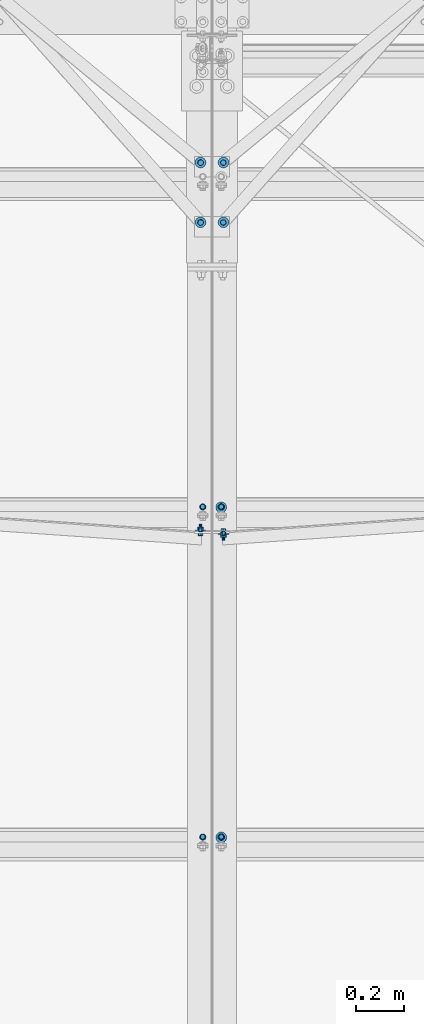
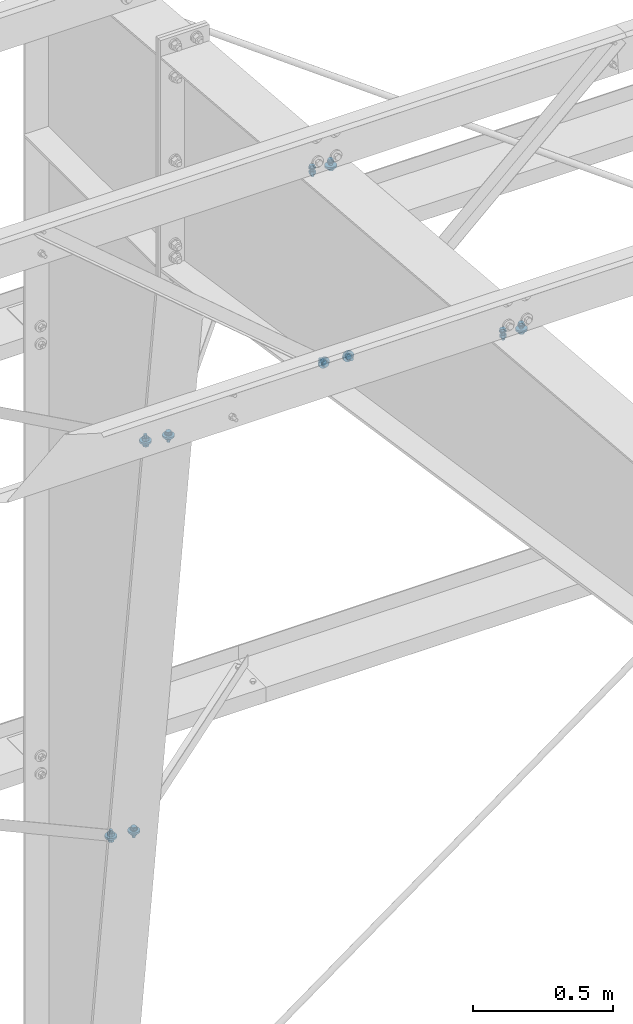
# One storey, part 151 of 185: 16 mechanical fasteners, 10 elements without a shape of their own.
"""IFC2X3 building model written with IfcOpenShell, lengths in millimetres."""

import ifcopenshell
import ifcopenshell.guid

model = None  # the IFC model being written
_history = None  # IfcOwnerHistory: only IFC2X3 demands one
_inside = {}  # id of a spatial element -> (the spatial element, [elements in it])
_under = {}  # id of a project, library or spatial element -> (it, [spatial elements below it])
_declared = {}  # id of a project -> (the project, [libraries it declares])
_typed = {}  # id of a type object -> (the type object, [elements of that type])
_made_of = {}  # id of a material, layer set ... -> (it, [elements and type objects made of it])


def new_model(schema):
    """Start an empty IFC model of exactly this schema.

    Asked for "IFC4X3", IfcOpenShell would pick the latest addendum, in which some entities
    have other attributes; the version numbers below select the first issue.
    IFC2X3 requires an IfcOwnerHistory on every rooted entity: one is made here for all.
    """
    global model, _history
    if schema == "IFC4X3":
        model = ifcopenshell.file(schema_version=(4, 3, 0, 0))
    else:
        model = ifcopenshell.file(schema=schema)
    _inside.clear()
    _under.clear()
    _declared.clear()
    _typed.clear()
    _made_of.clear()
    _history = None
    if model.schema == "IFC2X3":
        org = make("IfcOrganization", Name="unknown")
        user = make(
            "IfcPersonAndOrganization",
            ThePerson=make("IfcPerson", FamilyName="unknown"),
            TheOrganization=org,
        )
        app = make(
            "IfcApplication",
            ApplicationDeveloper=org,
            Version="unknown",
            ApplicationFullName="unknown",
            ApplicationIdentifier="unknown",
        )
        _history = make(
            "IfcOwnerHistory",
            OwningUser=user,
            OwningApplication=app,
            ChangeAction="ADDED",
            CreationDate=0,
        )
    return model


def make(cls, **values):
    """One entity of the class cls with the attributes given. An attribute that is None is left unset."""
    return model.create_entity(
        cls, **{name: value for name, value in values.items() if value is not None}
    )


def rooted(cls, **values):
    """An entity with a GlobalId (a new one), such as an element, a storey or a relation."""
    return make(cls, GlobalId=ifcopenshell.guid.new(), OwnerHistory=_history, **values)


def si_unit(unit_type, name, prefix=None):
    """IfcSIUnit, for example si_unit("LENGTHUNIT", "METRE", prefix="MILLI")."""
    return make("IfcSIUnit", UnitType=unit_type, Prefix=prefix, Name=name)


def assignment(units):
    """IfcUnitAssignment: the units of a project."""
    return None if units is None else make("IfcUnitAssignment", Units=units)


def point(xyz):
    """IfcCartesianPoint."""
    return None if xyz is None else make("IfcCartesianPoint", Coordinates=xyz)


def direction(xyz):
    """IfcDirection."""
    return None if xyz is None else make("IfcDirection", DirectionRatios=xyz)


def frame(location, z_axis=None, x_axis=None):
    """IfcAxis2Placement3D, a coordinate frame: its origin and axes. An axis left out is left unset."""
    return make(
        "IfcAxis2Placement3D",
        Location=point(location),
        Axis=direction(z_axis),
        RefDirection=direction(x_axis),
    )


def frame_2d(location, x_axis=None):
    """IfcAxis2Placement2D, a coordinate frame in the plane: its origin and x axis."""
    return make(
        "IfcAxis2Placement2D", Location=point(location), RefDirection=direction(x_axis)
    )


def origin_with_axes():
    """The frame at (0, 0, 0) with the z axis (0, 0, 1) and the x axis (1, 0, 0) written out."""
    return frame((0.0, 0.0, 0.0), z_axis=(0.0, 0.0, 1.0), x_axis=(1.0, 0.0, 0.0))


def origin_2d_with_axis():
    """The frame at (0, 0) in the plane with the x axis (1, 0) written out."""
    return frame_2d((0.0, 0.0), x_axis=(1.0, 0.0))


def place(relative_to, where):
    """IfcLocalPlacement: puts the frame where relative to a parent placement (None: the world)."""
    return make(
        "IfcLocalPlacement", PlacementRelTo=relative_to, RelativePlacement=where
    )


def context(
    kind, dimensions, precision=None, world=None, true_north=None, identifier=None
):
    """IfcGeometricRepresentationContext, for example the 3D "Model" context."""
    return make(
        "IfcGeometricRepresentationContext",
        ContextIdentifier=identifier,
        ContextType=kind,
        CoordinateSpaceDimension=dimensions,
        Precision=precision,
        WorldCoordinateSystem=world,
        TrueNorth=true_north,
    )


def subcontext(parent, identifier, kind, view, scale=None):
    """IfcGeometricRepresentationSubContext, for example "Body" below "Model"."""
    return make(
        "IfcGeometricRepresentationSubContext",
        ContextIdentifier=identifier,
        ContextType=kind,
        ParentContext=parent,
        TargetScale=scale,
        TargetView=view,
    )


def project(units=None, contexts=None):
    """IfcProject with its units and contexts."""
    return rooted(
        "IfcProject",
        Name="project",
        RepresentationContexts=contexts,
        UnitsInContext=assignment(units),
    )


def spatial(cls, under=None, at=None, **own):
    """A site, building, storey or space (cls), placed at a placement, below another one or the project."""
    s = rooted(cls, ObjectPlacement=at, **own)
    if under is not None:
        _under.setdefault(under.id(), (under, []))[1].append(s)
    return s


def polyline(points):
    """IfcPolyline through the points."""
    return make("IfcPolyline", Points=[point(p) for p in points])


def profile(cls, at=None, kind="AREA", **sizes):
    """A parametric profile (cls). Its sizes go by their IFC names, for example OverallWidth=200.0."""
    return make(cls, ProfileType=kind, Position=at, **sizes)


def circle(**sizes):
    """IfcCircleProfileDef."""
    return profile("IfcCircleProfileDef", **sizes)


def outline(outer, holes=None, kind="AREA"):
    """IfcArbitraryClosedProfileDef: a profile drawn as a closed curve; with holes, ...WithVoids."""
    if holes is None:
        return make("IfcArbitraryClosedProfileDef", ProfileType=kind, OuterCurve=outer)
    return make(
        "IfcArbitraryProfileDefWithVoids",
        ProfileType=kind,
        OuterCurve=outer,
        InnerCurves=holes,
    )


def extrude(swept, where, along, depth):
    """IfcExtrudedAreaSolid: the profile swept, set in the frame where, extruded along a direction by depth."""
    return make(
        "IfcExtrudedAreaSolid",
        SweptArea=swept,
        Position=where,
        ExtrudedDirection=direction(along),
        Depth=depth,
    )


def shape(context_of_items, identifier, shape_type, items):
    """IfcShapeRepresentation: the items that make up one representation, for example the "Body"."""
    return make(
        "IfcShapeRepresentation",
        ContextOfItems=context_of_items,
        RepresentationIdentifier=identifier,
        RepresentationType=shape_type,
        Items=items,
    )


def source(mapping_origin, context_of_items, identifier, shape_type, items):
    """IfcRepresentationMap: a shape defined once, which mapped items show again and again."""
    return make(
        "IfcRepresentationMap",
        MappingOrigin=mapping_origin,
        MappedRepresentation=shape(context_of_items, identifier, shape_type, items),
    )


def transform(
    local_origin,
    x_axis=None,
    y_axis=None,
    z_axis=None,
    scale=None,
    scale2=None,
    scale3=None,
    uniform=True,
):
    """IfcCartesianTransformationOperator3D, or its non-uniform kind. x_axis, y_axis, z_axis: its Axis1, 2, 3."""
    if uniform:
        return make(
            "IfcCartesianTransformationOperator3D",
            Axis1=direction(x_axis),
            Axis2=direction(y_axis),
            LocalOrigin=point(local_origin),
            Scale=scale,
            Axis3=direction(z_axis),
        )
    return make(
        "IfcCartesianTransformationOperator3DnonUniform",
        Axis1=direction(x_axis),
        Axis2=direction(y_axis),
        LocalOrigin=point(local_origin),
        Scale=scale,
        Axis3=direction(z_axis),
        Scale2=scale2,
        Scale3=scale3,
    )


def mapped(mapping_source, mapping_target):
    """IfcMappedItem: shows the shape of a source again, moved by a transform."""
    return make(
        "IfcMappedItem", MappingSource=mapping_source, MappingTarget=mapping_target
    )


def material(Name=None, Category=None):
    """IfcMaterial."""
    return make("IfcMaterial", Name=Name, Category=Category)


def made_of(thing, what):
    """Note that an element or type object is made of a material, layer set ...; save() writes the relation."""
    if what is not None:
        _made_of.setdefault(what.id(), (what, []))[1].append(thing)
    return thing


def type_object(cls, material=None, **own):
    """A type object (cls), such as IfcWallType, which elements share."""
    return made_of(rooted(cls, **own), material)


def element(
    cls,
    number,
    at=None,
    inside=None,
    cuts=None,
    type_object=None,
    material=None,
    context=None,
    identifier="Body",
    shape_type=None,
    held_by="IfcProductDefinitionShape",
    body=None,
    shapes=None,
    **own,
):
    """One element of the class cls, such as IfcWall. Its Tag is "e" and its number.

    at: its placement. inside: the storey or other place that contains it. cuts: it is an
    opening in that element (IfcRelVoidsElement). A single representation is given by context,
    identifier, shape_type and body (its items); several are given by shapes. held_by: the class
    of the entity that holds the representations. save() writes the other relations.
    """
    e = rooted(cls, Tag="e%d" % number, ObjectPlacement=at, **own)
    if body is not None:
        shapes = [shape(context, identifier, shape_type, body)]
    if shapes is not None:
        e.Representation = make(held_by, Representations=shapes)
    if inside is not None:
        _inside.setdefault(inside.id(), (inside, []))[1].append(e)
    if cuts is not None:
        rooted(
            "IfcRelVoidsElement", RelatingBuildingElement=cuts, RelatedOpeningElement=e
        )
    if type_object is not None:
        _typed.setdefault(type_object.id(), (type_object, []))[1].append(e)
    return made_of(e, material)


def aggregate(whole, parts):
    """IfcRelAggregates: a whole, such as a stair, and the parts it consists of."""
    return rooted("IfcRelAggregates", RelatingObject=whole, RelatedObjects=parts)


def save(model, path):
    """Write the relations noted so far, then the file.

    IfcRelAggregates (storeys below a building ...), IfcRelContainedInSpatialStructure (elements
    in a storey), IfcRelDefinesByType, IfcRelAssociatesMaterial and IfcRelDeclares: one each for
    every whole, place, type object, material and project.
    """
    for whole, parts in _under.values():
        aggregate(whole, parts)
    for where, things in _inside.values():
        rooted(
            "IfcRelContainedInSpatialStructure",
            RelatedElements=things,
            RelatingStructure=where,
        )
    for kind, things in _typed.values():
        rooted("IfcRelDefinesByType", RelatedObjects=things, RelatingType=kind)
    for what, things in _made_of.values():
        rooted("IfcRelAssociatesMaterial", RelatedObjects=things, RelatingMaterial=what)
    for by, libraries in _declared.values():
        rooted("IfcRelDeclares", RelatingContext=by, RelatedDefinitions=libraries)
    model.write(path)


model = new_model("IFC2X3")

# Units and contexts
model_context = context("Model", 3, precision=1e-05, world=origin_with_axes())
body_context = subcontext(model_context, "Body", "Model", "MODEL_VIEW")
ifc_project = project(units=[si_unit("LENGTHUNIT", "METRE", prefix="MILLI"), si_unit("AREAUNIT", "SQUARE_METRE"), si_unit("VOLUMEUNIT", "CUBIC_METRE"), si_unit("MASSUNIT", "GRAM", prefix="KILO"), si_unit("TIMEUNIT", "SECOND"), si_unit("PLANEANGLEUNIT", "RADIAN"), si_unit("SOLIDANGLEUNIT", "STERADIAN"), si_unit("THERMODYNAMICTEMPERATUREUNIT", "DEGREE_CELSIUS"), si_unit("LUMINOUSINTENSITYUNIT", "LUMEN")], contexts=[model_context])

# Site, building, storey
site_placement = place(None, origin_with_axes())
site = spatial("IfcSite", under=ifc_project, at=site_placement, Name="Undefined", CompositionType="ELEMENT")
building_placement = place(site_placement, origin_with_axes())
building = spatial("IfcBuilding", under=site, at=building_placement, Name="Undefined", CompositionType="ELEMENT")
storey_placement = place(building_placement, origin_with_axes())
storey = spatial("IfcBuildingStorey", under=building, at=storey_placement, Name="Undefined", CompositionType="ELEMENT", Elevation=0.0)

# Assembly, mechanical fastener
assembly_1_placement = place(storey_placement, origin_with_axes())
assembly_1 = element("IfcElementAssembly", 1, at=assembly_1_placement, inside=storey, Name="Steel Assembly", AssemblyPlace="NOTDEFINED", PredefinedType="RIGID_FRAME")
ifc_material_1 = material(Name="Undefined")
discrete_accessory_type = type_object("IfcDiscreteAccessoryType", Name="Bolt assembly")
shared_shape_1 = source(origin_with_axes(), body_context, "Body", "SweptSolid", [
    extrude(circle(Radius=7.14374971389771, at=origin_2d_with_axis()), frame((0.0, -1.59000001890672, 0.0), z_axis=(0.0, 1.0, 0.0), x_axis=(1.0, 0.0, 0.0)), (0.0, 0.0, 1.0), 1.7),
    extrude(outline(polyline([(10.9985221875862, 0.0), (5.4992610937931, 9.52499961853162), (-5.4992610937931, 9.52499961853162), (-10.9985221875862, 0.0), (-5.4992610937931, -9.52499961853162), (5.4992610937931, -9.52499961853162), (10.9985221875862, 0.0)])), frame((0.0, -15.0837496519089, 0.0), z_axis=(0.0, 1.0, 0.0), x_axis=(1.0, 0.0, 0.0)), (0.0, 0.0, 1.0), 9.5),
    extrude(circle(Radius=6.34999990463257, at=origin_2d_with_axis()), frame((0.0, -5.5587500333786, 0.0), z_axis=(0.0, 1.0, 0.0), x_axis=(1.0, 0.0, 0.0)), (0.0, 0.0, 1.0), 38.1),
    extrude(circle(Radius=13.4937496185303, at=origin_2d_with_axis()), frame((0.0, -5.5587500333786, 0.0), z_axis=(0.0, 1.0, 0.0), x_axis=(1.0, 0.0, 0.0)), (0.0, 0.0, 1.0), 4.0),
    extrude(circle(Radius=22.2250003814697, at=origin_2d_with_axis()), frame((0.0, 0.0, 0.0), z_axis=(0.0, 1.0, 0.0), x_axis=(1.0, 0.0, 0.0)), (0.0, 0.0, 1.0), 7.9),
    extrude(outline(polyline([(12.8316099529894, 0.0), (6.4158049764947, 11.1125001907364), (-6.4158049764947, 11.1125001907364), (-12.8316099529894, 0.0), (-6.4158049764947, -11.1125001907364), (6.4158049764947, -11.1125001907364), (12.8316099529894, 0.0)])), frame((0.0, 7.93750000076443, 0.0), z_axis=(0.0, 1.0, 0.0), x_axis=(1.0, 0.0, 0.0)), (0.0, 0.0, 1.0), 12.3),
])
mechanical_fastener_1_placement = place(assembly_1_placement, frame((7286.60285245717, 31270.0263730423, 2286.0), z_axis=(-0.636105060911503, 0.77160245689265, 0.0), x_axis=(0.771602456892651, 0.636105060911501, 0.0)))
mechanical_fastener_1 = element("IfcMechanicalFastener", 2, at=mechanical_fastener_1_placement, type_object=discrete_accessory_type, material=ifc_material_1, Name="Bolt assembly", NominalDiameter=12.6999998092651, NominalLength=38.0999984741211, context=body_context, shape_type="MappedRepresentation", body=[
    mapped(shared_shape_1, transform((0.0, 0.0, 0.0))),
])
aggregate(assembly_1, [mechanical_fastener_1])

assembly_2_placement = place(storey_placement, origin_with_axes())
assembly_2 = element("IfcElementAssembly", 3, at=assembly_2_placement, inside=storey, Name="Steel Assembly", AssemblyPlace="NOTDEFINED", PredefinedType="RIGID_FRAME")
mechanical_fastener_2_placement = place(assembly_2_placement, frame((7286.496148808, 31022.1390468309, 4165.6), z_axis=(-0.746933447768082, 0.664898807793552, 0.0), x_axis=(0.664898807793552, 0.746933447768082, 0.0)))
mechanical_fastener_2 = element("IfcMechanicalFastener", 4, at=mechanical_fastener_2_placement, type_object=discrete_accessory_type, material=ifc_material_1, Name="Bolt assembly", NominalDiameter=12.6999998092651, NominalLength=38.0999984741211, context=body_context, shape_type="MappedRepresentation", body=[
    mapped(shared_shape_1, transform((0.0, 0.0, 0.0))),
])
aggregate(assembly_2, [mechanical_fastener_2])

assembly_3_placement = place(storey_placement, origin_with_axes())
assembly_3 = element("IfcElementAssembly", 5, at=assembly_3_placement, inside=storey, Name="Steel Assembly", AssemblyPlace="NOTDEFINED", PredefinedType="RIGID_FRAME")
mechanical_fastener_3_placement = place(assembly_3_placement, frame((7191.39989306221, 29740.0532802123, 5288.49423673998), z_axis=(-0.639120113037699, -0.0638708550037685, -0.766450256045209), x_axis=(-0.769106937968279, 0.0530760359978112, 0.636912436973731)))
mechanical_fastener_3 = element("IfcMechanicalFastener", 6, at=mechanical_fastener_3_placement, type_object=discrete_accessory_type, material=ifc_material_1, Name="Bolt assembly", NominalDiameter=12.6999998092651, NominalLength=38.0999984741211, context=body_context, shape_type="MappedRepresentation", body=[
    mapped(shared_shape_1, transform((0.0, 0.0, 0.0))),
])
aggregate(assembly_3, [mechanical_fastener_3])

assembly_4_placement = place(storey_placement, origin_with_axes())
assembly_4 = element("IfcElementAssembly", 7, at=assembly_4_placement, inside=storey, Name="Steel Assembly", AssemblyPlace="NOTDEFINED", PredefinedType="RIGID_FRAME")
shared_shape_2 = source(origin_with_axes(), body_context, "Body", "SweptSolid", [
    extrude(circle(Radius=7.14374971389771, at=origin_2d_with_axis()), frame((0.0, 0.0, 0.0), z_axis=(0.0, 1.0, 0.0), x_axis=(1.0, 0.0, 0.0)), (0.0, 0.0, 1.0), 1.7),
    extrude(outline(polyline([(10.9985221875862, 0.0), (5.4992610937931, 9.52499961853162), (-5.4992610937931, 9.52499961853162), (-10.9985221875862, 0.0), (-5.4992610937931, -9.52499961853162), (5.4992610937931, -9.52499961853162), (10.9985221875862, 0.0)])), frame((0.0, -13.4937496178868, 0.0), z_axis=(0.0, 1.0, 0.0), x_axis=(1.0, 0.0, 0.0)), (0.0, 0.0, 1.0), 9.5),
    extrude(circle(Radius=6.34999990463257, at=origin_2d_with_axis()), frame((0.0, -3.96874999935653, 0.0), z_axis=(0.0, 1.0, 0.0), x_axis=(1.0, 0.0, 0.0)), (0.0, 0.0, 1.0), 38.1),
    extrude(circle(Radius=13.4937496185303, at=origin_2d_with_axis()), frame((0.0, -3.96874999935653, 0.0), z_axis=(0.0, 1.0, 0.0), x_axis=(1.0, 0.0, 0.0)), (0.0, 0.0, 1.0), 4.0),
    extrude(circle(Radius=22.2250003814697, at=origin_2d_with_axis()), frame((0.0, 1.5900000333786, 0.0), z_axis=(0.0, 1.0, 0.0), x_axis=(1.0, 0.0, 0.0)), (0.0, 0.0, 1.0), 7.9),
    extrude(outline(polyline([(12.8316099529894, 0.0), (6.4158049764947, 11.1125001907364), (-6.4158049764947, 11.1125001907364), (-12.8316099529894, 0.0), (-6.4158049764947, -11.1125001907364), (6.4158049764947, -11.1125001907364), (12.8316099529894, 0.0)])), frame((0.0, 9.5275000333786, 0.0), z_axis=(0.0, 1.0, 0.0), x_axis=(1.0, 0.0, 0.0)), (0.0, 0.0, 1.0), 12.3),
])
mechanical_fastener_4_placement = place(assembly_4_placement, frame((7191.39714754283, 31270.0263730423, 2286.0), z_axis=(0.636105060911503, 0.77160245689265, 0.0), x_axis=(-0.771602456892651, 0.636105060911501, 0.0)))
mechanical_fastener_4 = element("IfcMechanicalFastener", 8, at=mechanical_fastener_4_placement, type_object=discrete_accessory_type, material=ifc_material_1, Name="Bolt assembly", NominalDiameter=12.6999998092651, NominalLength=38.0999984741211, context=body_context, shape_type="MappedRepresentation", body=[
    mapped(shared_shape_2, transform((0.0, 0.0, 0.0))),
])
aggregate(assembly_4, [mechanical_fastener_4])

assembly_5_placement = place(storey_placement, origin_with_axes())
assembly_5 = element("IfcElementAssembly", 9, at=assembly_5_placement, inside=storey, Name="Steel Assembly", AssemblyPlace="NOTDEFINED", PredefinedType="RIGID_FRAME")
mechanical_fastener_5_placement = place(assembly_5_placement, frame((7191.503851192, 31022.1390468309, 4165.6), z_axis=(0.746933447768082, 0.664898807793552, 0.0), x_axis=(-0.664898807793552, 0.746933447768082, 0.0)))
mechanical_fastener_5 = element("IfcMechanicalFastener", 10, at=mechanical_fastener_5_placement, type_object=discrete_accessory_type, material=ifc_material_1, Name="Bolt assembly", NominalDiameter=12.6999998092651, NominalLength=38.0999984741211, context=body_context, shape_type="MappedRepresentation", body=[
    mapped(shared_shape_2, transform((0.0, 0.0, 0.0))),
])
aggregate(assembly_5, [mechanical_fastener_5])

assembly_6_placement = place(storey_placement, origin_with_axes())
assembly_6 = element("IfcElementAssembly", 11, at=assembly_6_placement, inside=storey, Name="Steel Assembly", AssemblyPlace="NOTDEFINED", PredefinedType="RIGID_FRAME")
mechanical_fastener_6_placement = place(assembly_6_placement, frame((7286.60010693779, 29740.0532802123, 5288.49423673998), z_axis=(0.639120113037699, -0.0638708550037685, -0.766450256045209), x_axis=(0.769106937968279, 0.0530760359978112, 0.636912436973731)))
mechanical_fastener_6 = element("IfcMechanicalFastener", 12, at=mechanical_fastener_6_placement, type_object=discrete_accessory_type, material=ifc_material_1, Name="Bolt assembly", NominalDiameter=12.6999998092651, NominalLength=38.0999984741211, context=body_context, shape_type="MappedRepresentation", body=[
    mapped(shared_shape_2, transform((0.0, 0.0, 0.0))),
])
aggregate(assembly_6, [mechanical_fastener_6])

# Assembly, mechanical fasteners
assembly_7_placement = place(storey_placement, origin_with_axes())
assembly_7 = element("IfcElementAssembly", 13, at=assembly_7_placement, inside=storey, Name="Steel Assembly", AssemblyPlace="NOTDEFINED", PredefinedType="RIGID_FRAME")
ifc_material_2 = material(Name="7990")
shared_shape_3 = source(origin_with_axes(), body_context, "Body", "SweptSolid", [
    extrude(circle(Radius=7.14374971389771, at=origin_2d_with_axis()), frame((0.0, -3.41600000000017, 0.0), z_axis=(0.0, 1.0, 0.0), x_axis=(1.0, 0.0, 0.0)), (0.0, 0.0, 1.0), 3.5),
    extrude(circle(Radius=11.4299998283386, at=origin_2d_with_axis()), frame((0.0, 0.0, 0.0), z_axis=(0.0, 1.0, 0.0), x_axis=(1.0, 0.0, 0.0)), (0.0, 0.0, 1.0), 4.2),
    extrude(outline(polyline([(12.171698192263, 0.0), (6.08584909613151, 10.5409998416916), (-6.08584909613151, 10.5409998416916), (-12.171698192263, 0.0), (-6.08584909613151, -10.5409998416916), (6.08584909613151, -10.5409998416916), (12.171698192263, 0.0)])), frame((0.0, 4.1909999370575, 0.0), z_axis=(0.0, 1.0, 0.0), x_axis=(1.0, 0.0, 0.0)), (0.0, 0.0, 1.0), 8.4),
])
mechanical_fastener_7_placement = place(assembly_7_placement, frame((7285.83125, 31269.3902679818, 2286.0), z_axis=(-0.921635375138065, -0.388057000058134, 0.0), x_axis=(0.388057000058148, -0.921635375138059, 0.0)))
mechanical_fastener_7 = element("IfcMechanicalFastener", 14, at=mechanical_fastener_7_placement, type_object=discrete_accessory_type, material=ifc_material_2, Name="Bolt assembly", NominalDiameter=12.6999998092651, NominalLength=38.0999984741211, context=body_context, shape_type="MappedRepresentation", body=[
    mapped(shared_shape_3, transform((0.0, 0.0, 0.0))),
])
mechanical_fastener_8_placement = place(assembly_7_placement, frame((7285.83125, 31021.3921133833, 4165.6), z_axis=(-0.921635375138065, -0.388057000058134, 0.0), x_axis=(0.388057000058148, -0.921635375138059, 0.0)))
mechanical_fastener_8 = element("IfcMechanicalFastener", 15, at=mechanical_fastener_8_placement, type_object=discrete_accessory_type, material=ifc_material_2, Name="Bolt assembly", NominalDiameter=12.6999998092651, NominalLength=38.0999984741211, context=body_context, shape_type="MappedRepresentation", body=[
    mapped(shared_shape_3, transform((0.0, 0.0, 0.0))),
])

# Assembly, mechanical fastener
assembly_8_placement = place(storey_placement, origin_with_axes())
assembly_8 = element("IfcElementAssembly", 16, at=assembly_8_placement, inside=storey, Name="Steel Assembly", AssemblyPlace="NOTDEFINED", PredefinedType="RIGID_FRAME")
mechanical_fastener_9_placement = place(assembly_8_placement, frame((7285.831, 29740.0002041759, 5287.85732430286), z_axis=(-0.921635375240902, -0.0322263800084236, -0.386716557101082), x_axis=(0.388056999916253, -0.0765376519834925, -0.918451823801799)))
mechanical_fastener_9 = element("IfcMechanicalFastener", 17, at=mechanical_fastener_9_placement, type_object=discrete_accessory_type, material=ifc_material_2, Name="Bolt assembly", NominalDiameter=12.6999998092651, NominalLength=38.0999984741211, context=body_context, shape_type="MappedRepresentation", body=[
    mapped(shared_shape_3, transform((0.0, 0.0, 0.0))),
])

# Mechanical fastener
shared_shape_4 = source(origin_with_axes(), body_context, "Body", "SweptSolid", [
    extrude(circle(Radius=7.14374971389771, at=origin_2d_with_axis()), frame((0.0, 0.0, 0.0), z_axis=(0.0, 1.0, 0.0), x_axis=(1.0, 0.0, 0.0)), (0.0, 0.0, 1.0), 3.5),
    extrude(circle(Radius=11.4299998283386, at=origin_2d_with_axis()), frame((0.0, 3.41600000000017, 0.0), z_axis=(0.0, 1.0, 0.0), x_axis=(1.0, 0.0, 0.0)), (0.0, 0.0, 1.0), 4.2),
    extrude(outline(polyline([(12.171698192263, 0.0), (6.08584909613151, 10.5409998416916), (-6.08584909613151, 10.5409998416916), (-12.171698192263, 0.0), (-6.08584909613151, -10.5409998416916), (6.08584909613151, -10.5409998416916), (12.171698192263, 0.0)])), frame((0.0, 7.60699993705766, 0.0), z_axis=(0.0, 1.0, 0.0), x_axis=(1.0, 0.0, 0.0)), (0.0, 0.0, 1.0), 8.4),
])
mechanical_fastener_10_placement = place(assembly_7_placement, frame((7192.16875, 31269.3902679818, 2286.0), z_axis=(0.921635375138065, -0.388057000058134, 0.0), x_axis=(-0.388057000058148, -0.921635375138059, 0.0)))
mechanical_fastener_10 = element("IfcMechanicalFastener", 18, at=mechanical_fastener_10_placement, type_object=discrete_accessory_type, material=ifc_material_2, Name="Bolt assembly", NominalDiameter=12.6999998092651, NominalLength=38.0999984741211, context=body_context, shape_type="MappedRepresentation", body=[
    mapped(shared_shape_4, transform((0.0, 0.0, 0.0))),
])

mechanical_fastener_11_placement = place(assembly_7_placement, frame((7192.16875, 31021.3921133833, 4165.6), z_axis=(0.921635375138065, -0.388057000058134, 0.0), x_axis=(-0.388057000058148, -0.921635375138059, 0.0)))
mechanical_fastener_11 = element("IfcMechanicalFastener", 19, at=mechanical_fastener_11_placement, type_object=discrete_accessory_type, material=ifc_material_2, Name="Bolt assembly", NominalDiameter=12.6999998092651, NominalLength=38.0999984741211, context=body_context, shape_type="MappedRepresentation", body=[
    mapped(shared_shape_4, transform((0.0, 0.0, 0.0))),
])

aggregate(assembly_7, [mechanical_fastener_7, mechanical_fastener_10, mechanical_fastener_8, mechanical_fastener_11])

mechanical_fastener_12_placement = place(assembly_8_placement, frame((7192.169, 29740.0002041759, 5287.85732430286), z_axis=(0.921635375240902, -0.0322263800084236, -0.386716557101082), x_axis=(-0.388056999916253, -0.0765376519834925, -0.918451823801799)))
mechanical_fastener_12 = element("IfcMechanicalFastener", 20, at=mechanical_fastener_12_placement, type_object=discrete_accessory_type, material=ifc_material_2, Name="Bolt assembly", NominalDiameter=12.6999998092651, NominalLength=38.0999984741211, context=body_context, shape_type="MappedRepresentation", body=[
    mapped(shared_shape_4, transform((0.0, 0.0, 0.0))),
])

aggregate(assembly_8, [mechanical_fastener_12, mechanical_fastener_9])

# Assembly, mechanical fastener
assembly_9_placement = place(storey_placement, origin_with_axes())
assembly_9 = element("IfcElementAssembly", 21, at=assembly_9_placement, inside=storey, Name="Steel Assembly", AssemblyPlace="NOTDEFINED", PredefinedType="RIGID_FRAME")
shared_shape_5 = source(origin_with_axes(), body_context, "Body", "SweptSolid", [
    extrude(circle(Radius=7.14374971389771, at=origin_2d_with_axis()), frame((0.0, -0.0238014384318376, 0.0), z_axis=(0.0, 1.0, 0.0), x_axis=(1.0, 0.0, 0.0)), (0.0, 0.0, 1.0), 8.0),
    extrude(circle(Radius=7.14374971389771, at=origin_2d_with_axis()), frame((0.0, -3.08000006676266, 0.0), z_axis=(0.0, 1.0, 0.0), x_axis=(1.0, 0.0, 0.0)), (0.0, 0.0, 1.0), 3.2),
    extrude(circle(Radius=7.14374971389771, at=origin_2d_with_axis()), frame((0.0, -3.08000006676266, 0.0), z_axis=(0.0, 1.0, 0.0), x_axis=(1.0, 0.0, 0.0)), (0.0, 0.0, 1.0), 3.2),
    extrude(outline(polyline([(10.9985221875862, 0.0), (5.4992610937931, 9.52499961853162), (-5.4992610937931, 9.52499961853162), (-10.9985221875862, 0.0), (-5.4992610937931, -9.52499961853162), (5.4992610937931, -9.52499961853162), (10.9985221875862, 0.0)])), frame((0.0, -16.6737496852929, 0.0), z_axis=(0.0, 1.0, 0.0), x_axis=(1.0, 0.0, 0.0)), (0.0, 0.0, 1.0), 9.5),
    extrude(circle(Radius=6.34999990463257, at=origin_2d_with_axis()), frame((0.0, -7.14875006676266, 0.0), z_axis=(0.0, 1.0, 0.0), x_axis=(1.0, 0.0, 0.0)), (0.0, 0.0, 1.0), 38.1),
    extrude(circle(Radius=13.4937496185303, at=origin_2d_with_axis()), frame((0.0, -7.14875006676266, 0.0), z_axis=(0.0, 1.0, 0.0), x_axis=(1.0, 0.0, 0.0)), (0.0, 0.0, 1.0), 4.0),
    extrude(circle(Radius=22.2250003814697, at=origin_2d_with_axis()), frame((0.0, 7.95019856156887, 0.0), z_axis=(0.0, 1.0, 0.0), x_axis=(1.0, 0.0, 0.0)), (0.0, 0.0, 1.0), 7.9),
    extrude(outline(polyline([(12.8316099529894, 0.0), (6.4158049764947, 11.1125001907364), (-6.4158049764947, 11.1125001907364), (-12.8316099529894, 0.0), (-6.4158049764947, -11.1125001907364), (6.4158049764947, -11.1125001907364), (12.8316099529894, 0.0)])), frame((0.0, 15.8876985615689, 0.0), z_axis=(0.0, 1.0, 0.0), x_axis=(1.0, 0.0, 0.0)), (0.0, 0.0, 1.0), 12.3),
])
mechanical_fastener_13_placement = place(assembly_9_placement, frame((7277.1, 29843.5883209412, 6072.12997209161), z_axis=(-1.0, 0.0, 0.0), x_axis=(0.0, 0.996545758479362, -0.0830454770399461)))
mechanical_fastener_13 = element("IfcMechanicalFastener", 22, at=mechanical_fastener_13_placement, type_object=discrete_accessory_type, material=ifc_material_1, Name="Bolt assembly", NominalDiameter=12.6999998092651, NominalLength=38.0999984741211, context=body_context, shape_type="MappedRepresentation", body=[
    mapped(shared_shape_5, transform((0.0, 0.0, 0.0))),
])

assembly_10_placement = place(storey_placement, origin_with_axes())
assembly_10 = element("IfcElementAssembly", 23, at=assembly_10_placement, inside=storey, Name="Steel Assembly", AssemblyPlace="NOTDEFINED", PredefinedType="RIGID_FRAME")
mechanical_fastener_14_placement = place(assembly_10_placement, frame((7277.1, 28476.7261589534, 6186.03515249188), z_axis=(-1.0, 0.0, 0.0), x_axis=(0.0, 0.996545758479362, -0.0830454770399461)))
mechanical_fastener_14 = element("IfcMechanicalFastener", 24, at=mechanical_fastener_14_placement, type_object=discrete_accessory_type, material=ifc_material_1, Name="Bolt assembly", NominalDiameter=12.6999998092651, NominalLength=38.0999984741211, context=body_context, shape_type="MappedRepresentation", body=[
    mapped(shared_shape_5, transform((0.0, 0.0, 0.0))),
])

# Mechanical fastener
shared_shape_6 = source(origin_with_axes(), body_context, "Body", "SweptSolid", [
    extrude(circle(Radius=7.14374971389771, at=origin_2d_with_axis()), frame((0.0, -0.0238014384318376, 0.0), z_axis=(0.0, 1.0, 0.0), x_axis=(1.0, 0.0, 0.0)), (0.0, 0.0, 1.0), 8.0),
    extrude(circle(Radius=7.14374971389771, at=origin_2d_with_axis()), frame((0.0, -3.08000006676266, 0.0), z_axis=(0.0, 1.0, 0.0), x_axis=(1.0, 0.0, 0.0)), (0.0, 0.0, 1.0), 3.2),
    extrude(circle(Radius=7.14374971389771, at=origin_2d_with_axis()), frame((0.0, -3.08000006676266, 0.0), z_axis=(0.0, 1.0, 0.0), x_axis=(1.0, 0.0, 0.0)), (0.0, 0.0, 1.0), 3.2),
    extrude(outline(polyline([(10.9985221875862, 0.0), (5.4992610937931, 9.52499961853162), (-5.4992610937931, 9.52499961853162), (-10.9985221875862, 0.0), (-5.4992610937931, -9.52499961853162), (5.4992610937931, -9.52499961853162), (10.9985221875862, 0.0)])), frame((0.0, -16.6737496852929, 0.0), z_axis=(0.0, 1.0, 0.0), x_axis=(1.0, 0.0, 0.0)), (0.0, 0.0, 1.0), 9.5),
    extrude(circle(Radius=6.34999990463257, at=origin_2d_with_axis()), frame((0.0, -7.14875006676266, 0.0), z_axis=(0.0, 1.0, 0.0), x_axis=(1.0, 0.0, 0.0)), (0.0, 0.0, 1.0), 38.1),
    extrude(circle(Radius=13.4937496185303, at=origin_2d_with_axis()), frame((0.0, -7.14875006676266, 0.0), z_axis=(0.0, 1.0, 0.0), x_axis=(1.0, 0.0, 0.0)), (0.0, 0.0, 1.0), 4.0),
    extrude(outline(polyline([(12.8316099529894, 0.0), (6.4158049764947, 11.1125001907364), (-6.4158049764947, 11.1125001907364), (-12.8316099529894, 0.0), (-6.4158049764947, -11.1125001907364), (6.4158049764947, -11.1125001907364), (12.8316099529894, 0.0)])), frame((0.0, 7.95019856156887, 0.0), z_axis=(0.0, 1.0, 0.0), x_axis=(1.0, 0.0, 0.0)), (0.0, 0.0, 1.0), 12.3),
])
mechanical_fastener_15_placement = place(assembly_9_placement, frame((7200.9, 29843.5883209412, 6072.12997209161), z_axis=(-1.0, 0.0, 0.0), x_axis=(0.0, 0.996545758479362, -0.0830454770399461)))
mechanical_fastener_15 = element("IfcMechanicalFastener", 25, at=mechanical_fastener_15_placement, type_object=discrete_accessory_type, material=ifc_material_1, Name="Bolt assembly", NominalDiameter=12.6999998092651, NominalLength=38.0999984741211, context=body_context, shape_type="MappedRepresentation", body=[
    mapped(shared_shape_6, transform((0.0, 0.0, 0.0))),
])

aggregate(assembly_9, [mechanical_fastener_13, mechanical_fastener_15])

mechanical_fastener_16_placement = place(assembly_10_placement, frame((7200.9, 28476.7261589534, 6186.03515249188), z_axis=(-1.0, 0.0, 0.0), x_axis=(0.0, 0.996545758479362, -0.0830454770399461)))
mechanical_fastener_16 = element("IfcMechanicalFastener", 26, at=mechanical_fastener_16_placement, type_object=discrete_accessory_type, material=ifc_material_1, Name="Bolt assembly", NominalDiameter=12.6999998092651, NominalLength=38.0999984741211, context=body_context, shape_type="MappedRepresentation", body=[
    mapped(shared_shape_6, transform((0.0, 0.0, 0.0))),
])

aggregate(assembly_10, [mechanical_fastener_14, mechanical_fastener_16])

save(model, "model.ifc")
